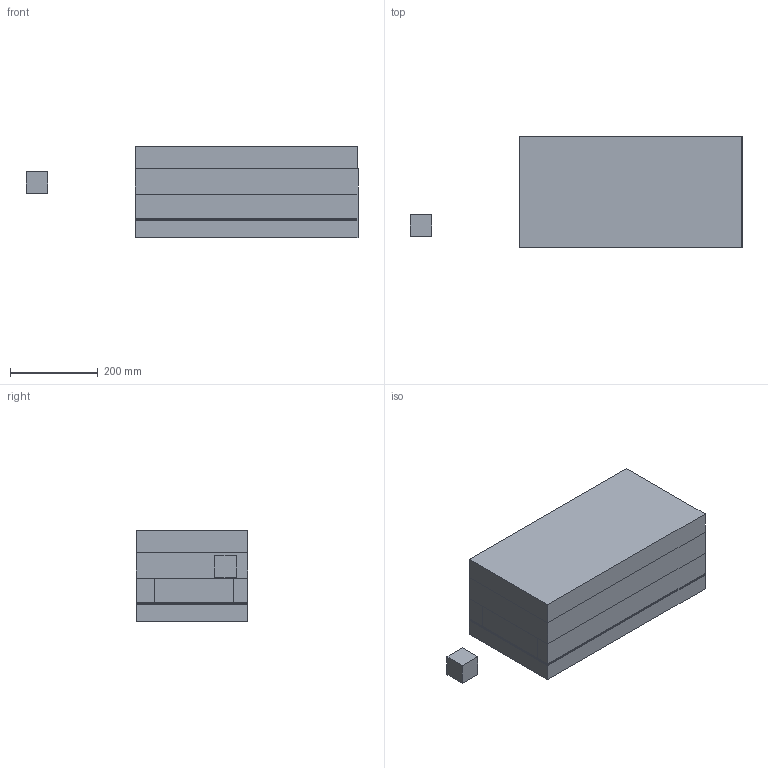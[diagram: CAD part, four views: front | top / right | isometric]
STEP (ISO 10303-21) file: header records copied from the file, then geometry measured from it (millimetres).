
FILE_DESCRIPTION(/* description */ ('Alibre Inc.'),/* implementation_level */ '2;1');
FILE_NAME(/* name */ 'export0',/* time_stamp */ '2016-05-06T09:47:04-07:00',/* author */ (''),/* organization */ (''),/* preprocessor_version */ 'ST-DEVELOPER v14',/* originating_system */ 'Alibre',/* authorisation */ '');
FILE_SCHEMA (('AUTOMOTIVE_DESIGN'));
Length unit declared in the file: centimetre
Bounding box: 758 x 254 x 209.53 mm (x, y, z)
Volume: 26368518.6 mm3; surface area: 2349706.6 mm2
Topology: 64 solids, 64 shells, 2244 faces, 5735 edges, 3814 vertices
Faces by surface type: plane 1418, cylinder 655, bspline 105, cone 51, torus 13, extrusion 2
Full cylindrical faces by diameter (mm): 5.08 x20, 5.858 x3, 6.06 x4, 7.979 x2, 8.08 x4, 8.888 x11, 10.1 x4, 10.605 x8, 11.261 x2, 11.262 x2, 11.918 x18, 12.019 x2, 13.209 x1, 14.225 x2, 16.332 x4, 17.05 x4, 18.066 x8, 18.872 x8, 19.695 x3, 20.2 x5, 22.452 x4, 25.4 x5, 35.451 x8
Entity records: 298219 total; most frequent: CARTESIAN_POINT 247361, ORIENTED_EDGE 10896, DIRECTION 8816, EDGE_CURVE 5448, VERTEX_POINT 3690, VECTOR 3384, LINE 3383, AXIS2_PLACEMENT_3D 3348
